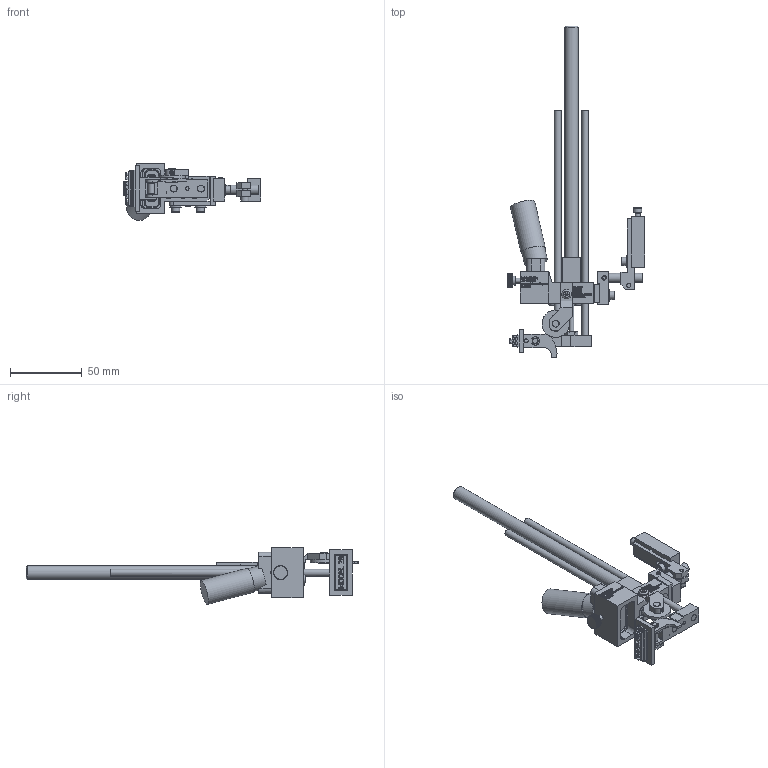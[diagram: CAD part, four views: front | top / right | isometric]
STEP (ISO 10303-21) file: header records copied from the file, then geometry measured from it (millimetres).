
FILE_DESCRIPTION((''),'2;1');
FILE_NAME('C:\Documents and Settings\Ron\My Documents\Inventor\Sprinter Drawing\Machines in Inventor\Model 28\Type\Ext Str\E4\Brkt\90\Model 28 E4 Type 90 deg w brkt.stp','2009-01-26T07:36:27',('Ron'),(''),'Autodesk Inventor 2008','Autodesk Inventor 2008','');
FILE_SCHEMA(('AUTOMOTIVE_DESIGN { 1 0 10303 214 1 1 1 1 }'));
Length unit declared in the file: inch
Products named in the file (1): Model 28 E4 Type 90 deg w brkt
Bounding box: 95.97 x 231.85 x 39.63 mm (x, y, z)
Volume: 78134.5 mm3; surface area: 42747.2 mm2
Topology: 35 solids, 35 shells, 4145 faces, 11276 edges, 7486 vertices
Faces by surface type: plane 2430, bspline 1345, cylinder 310, cone 46, torus 14
Full cylindrical faces by diameter (mm): 2.337 x1, 2.845 x3, 2.946 x2, 3.048 x1, 3.175 x2, 3.454 x1, 3.505 x7, 3.658 x1, 3.876 x1, 3.962 x8, 3.988 x1, 4.064 x1, 4.648 x2, 4.699 x1, 4.75 x1, 4.763 x2, 4.788 x1, 5.41 x2, 5.74 x6, 6.096 x1, 6.325 x2, 6.35 x2, 6.655 x1, 7.239 x1, 7.925 x4, 7.938 x1, 8.128 x1, 9.525 x1, 10.922 x1, 11.938 x1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
Entity records: 143177 total; most frequent: CARTESIAN_POINT 45970, ORIENTED_EDGE 22064, DIRECTION 14851, EDGE_CURVE 11032, VECTOR 7495, LINE 7495, VERTEX_POINT 7406, EDGE_LOOP 4670
